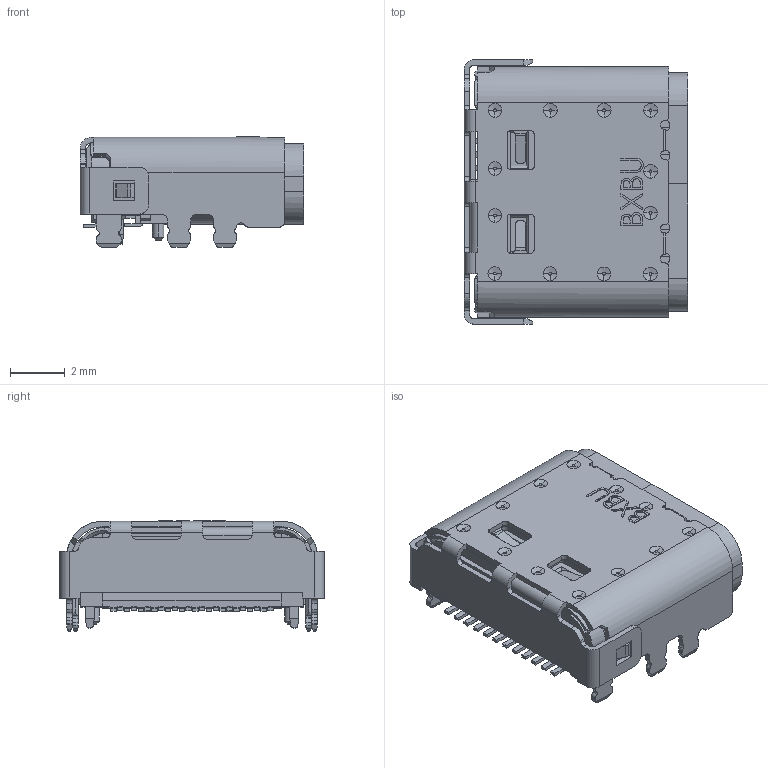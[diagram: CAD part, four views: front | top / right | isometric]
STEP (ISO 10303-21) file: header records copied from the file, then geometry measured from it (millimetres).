
FILE_DESCRIPTION((' '),'2;1');
FILE_NAME( 'U5192-24PN8.20L.stp', '2026-05-12T17:26:46', (' '), ('--- ---'), ' V2026.1 Dec 31 2025', ' 2026 (c)', ' ');
FILE_SCHEMA(('AP242_MANAGED_MODEL_BASED_3D_ENGINEERING_MIM_LF { 1 0 10303 442 1 1 4 }'));
Length unit declared in the file: millimetre
Products named in the file (8): R-F13KU_R-S13KU(240911)_R-S13KU(240911); SHELL3_R-D3_ASM_R-S13KU(240911)_R-S13KU(240911); R-D3_ASM_R-S13KU(240911)_R-S13KU(240911); SHELL1_R-D1_ASM_R-S13KU(240911)_R-S13KU(240911); R-D1_ASM_R-S13KU(240911)_R-S13KU(240911); R-S13KU(240911)_R-S13KU(240911); U5192-24PN8.20L(2); U5192-24PN8.20L
Assembly tree (7 placements, depth 5):
  U5192-24PN8.20L
    U5192-24PN8.20L(2)
      R-S13KU(240911)_R-S13KU(240911)
        R-F13KU_R-S13KU(240911)_R-S13KU(240911)
        R-D3_ASM_R-S13KU(240911)_R-S13KU(240911)
          SHELL3_R-D3_ASM_R-S13KU(240911)_R-S13KU(240911)
        R-D1_ASM_R-S13KU(240911)_R-S13KU(240911)
          SHELL1_R-D1_ASM_R-S13KU(240911)_R-S13KU(240911)
Bounding box: 8.19 x 9.68 x 4.06 mm (x, y, z)
Volume: 137.1 mm3; surface area: 798 mm2
Topology: 47 solids, 47 shells, 1940 faces, 5265 edges, 3447 vertices
Faces by surface type: plane 1308, cylinder 496, cone 56, torus 50, bspline 30
Entity records: 63137 total; most frequent: CARTESIAN_POINT 15070, ORIENTED_EDGE 10530, DIRECTION 9041, EDGE_CURVE 5265, VECTOR 3633, LINE 3633, VERTEX_POINT 3447, AXIS2_PLACEMENT_3D 2704
